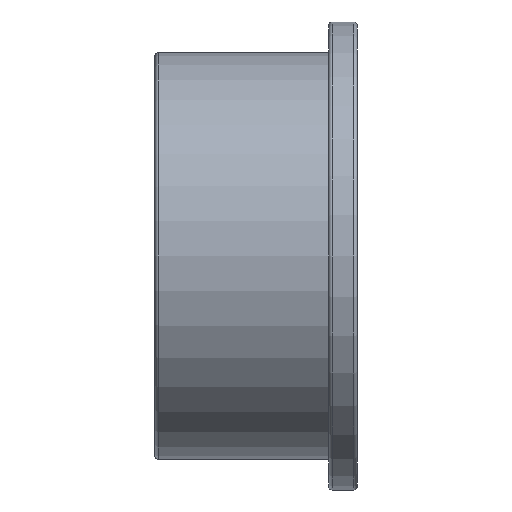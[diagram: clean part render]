
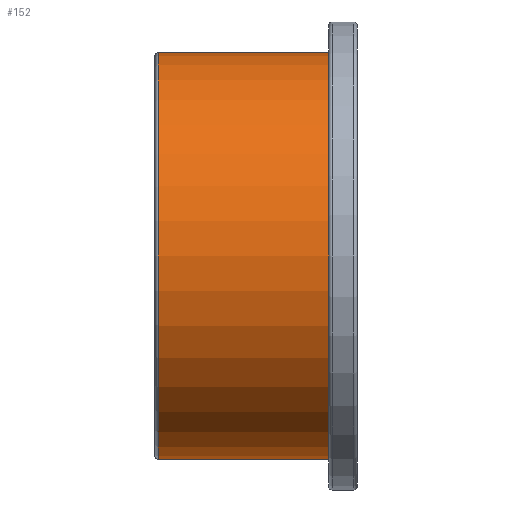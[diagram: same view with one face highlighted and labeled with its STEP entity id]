
A CAD part, front view. The second image highlights one B-rep face of the part: STEP entity #152.
In plain terms, the highlighted cylindrical face has radius 92.5 mm (diameter 185 mm), a full revolution.
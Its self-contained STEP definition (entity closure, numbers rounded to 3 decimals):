
#21=CYLINDRICAL_SURFACE('',#176,92.5);
#30=FACE_BOUND('',#64,.T.);
#43=FACE_OUTER_BOUND('',#63,.T.);
#63=EDGE_LOOP('',(#128));
#64=EDGE_LOOP('',(#129));
#78=CIRCLE('',#166,92.5);
#83=CIRCLE('',#175,92.5);
#91=VERTEX_POINT('',#250);
#96=VERTEX_POINT('',#264);
#104=EDGE_CURVE('',#91,#91,#78,.T.);
#109=EDGE_CURVE('',#96,#96,#83,.T.);
#128=ORIENTED_EDGE('',*,*,#104,.T.);
#129=ORIENTED_EDGE('',*,*,#109,.F.);
#152=ADVANCED_FACE('',(#43,#30),#21,.T.);
#166=AXIS2_PLACEMENT_3D('',#251,#200,#201);
#175=AXIS2_PLACEMENT_3D('',#265,#218,#219);
#176=AXIS2_PLACEMENT_3D('',#266,#220,#221);
#200=DIRECTION('center_axis',(-1.,0.,0.));
#201=DIRECTION('ref_axis',(0.,0.,1.));
#218=DIRECTION('center_axis',(-1.,0.,0.));
#219=DIRECTION('ref_axis',(0.,1.,0.));
#220=DIRECTION('center_axis',(-1.,0.,0.));
#221=DIRECTION('ref_axis',(0.,-1.,0.));
#250=CARTESIAN_POINT('',(79.,-92.5,0.));
#251=CARTESIAN_POINT('Origin',(79.,0.,0.));
#264=CARTESIAN_POINT('',(1.6,-92.5,0.));
#265=CARTESIAN_POINT('Origin',(1.6,0.,0.));
#266=CARTESIAN_POINT('Origin',(39.5,0.,0.));
